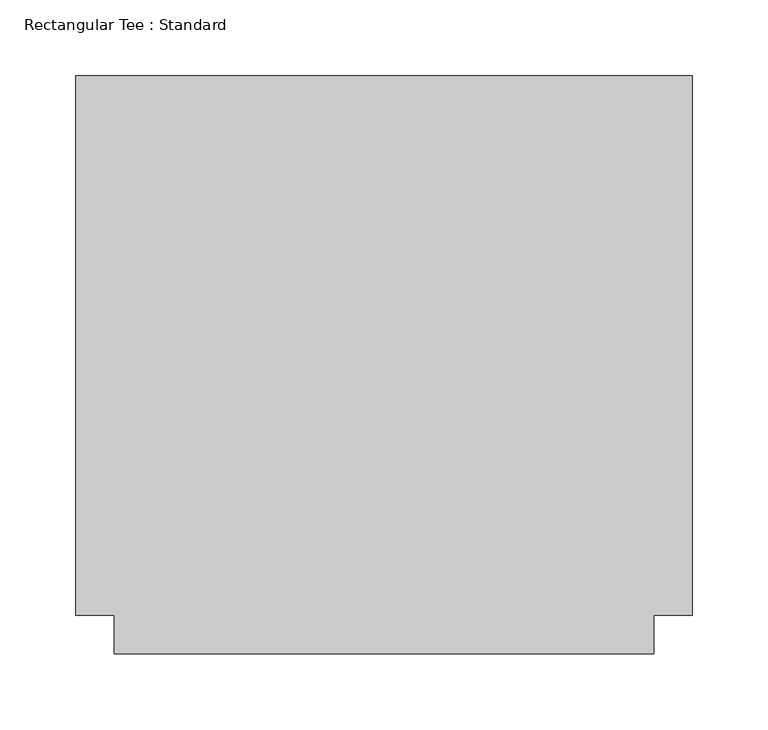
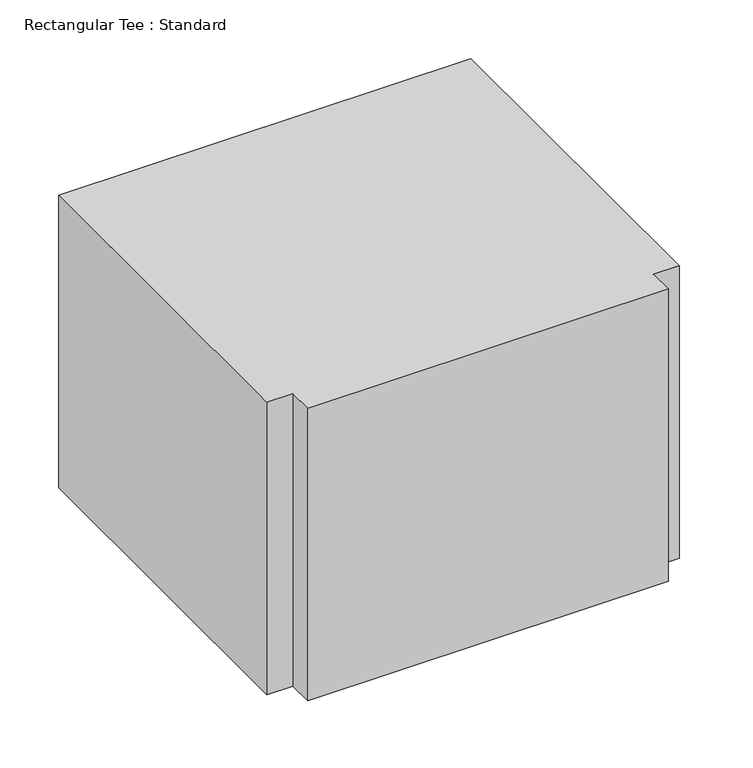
"""IFC4 building model written with IfcOpenShell, lengths in millimetres: duct fitting geometry, Rectangular Tee : Standard."""

from ifc_helpers import new_model, si_unit, frame, origin, place, context, project, spatial, polyline, outline, extrude, source, transform, mapped, element, save


def rectangular_tee_standard_d9ff6fab(model_context):
    return source(origin(), model_context, "Body", "SweptSolid", [
        extrude(outline(polyline([(-203.2, -177.8), (-203.2, 177.8), (203.2, 177.8), (203.2, -177.8), (177.8, -177.8), (177.8, -203.2), (-177.8, -203.2), (-177.8, -177.8), (-203.2, -177.8)])), frame((0.0, 0.0, -152.4), z_axis=(0.0, 0.0, 1.0), x_axis=(1.0, 0.0, 0.0)), (0.0, 0.0, 1.0), 304.8),
    ])


if __name__ == "__main__":
    model = new_model("IFC4")
    model_context = context("Model", 3, world=origin())
    ifc_project = project(units=[si_unit("LENGTHUNIT", "METRE", prefix="MILLI")], contexts=[model_context])
    site = spatial("IfcSite", under=ifc_project)
    building = spatial("IfcBuilding", under=site)
    placement = place(None, origin())
    rectangular_tee_standard_shape = rectangular_tee_standard_d9ff6fab(model_context)
    element("IfcDuctFitting", 1, ObjectType="Rectangular Tee : Standard", at=placement, inside=building, context=model_context, shape_type="MappedRepresentation", body=[
        mapped(rectangular_tee_standard_shape, transform((0.0, 0.0, 0.0), x_axis=(1.0, 0.0, 0.0), y_axis=(0.0, 1.0, 0.0), z_axis=(0.0, 0.0, 1.0))),
    ])
    save(model, "model.ifc")
